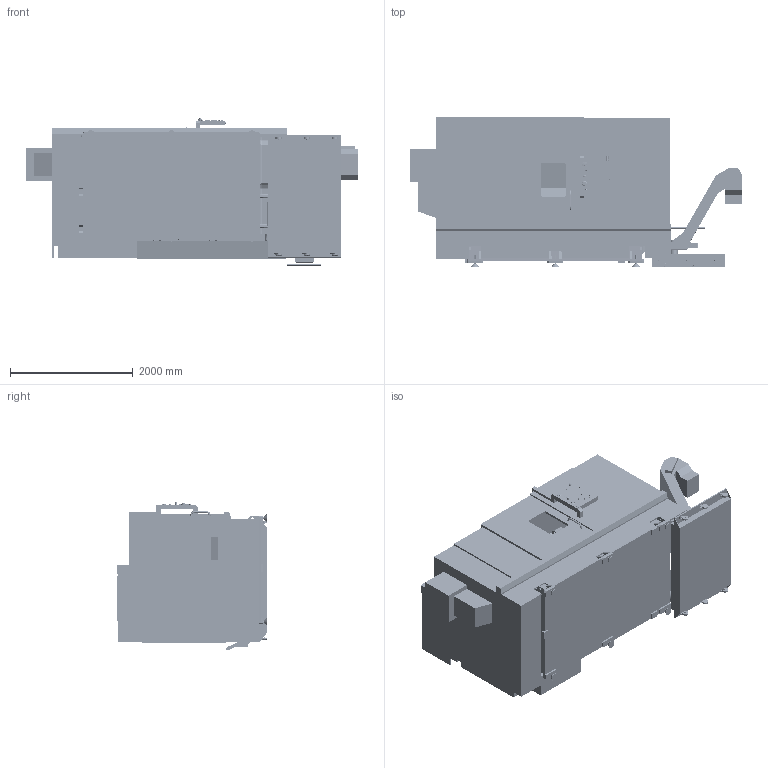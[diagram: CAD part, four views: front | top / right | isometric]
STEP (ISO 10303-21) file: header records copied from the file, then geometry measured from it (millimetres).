
FILE_DESCRIPTION (( 'STEP AP203' ), '1' );
FILE_NAME ('ST-45Y_5_2024.STEP', '2024-05-23T18:39:52', ( '' ), ( '' ), 'SwSTEP 2.0', 'SolidWorks 2022', '' );
FILE_SCHEMA (( 'CONFIG_CONTROL_DESIGN' ));
Length unit declared in the file: inch
Products named in the file (82): st40 enclosure; y wedge; coolant tank_6; bmt 75 Metric_10; ST 40 LEVELING PADS_4; bmt 75 inch_3; coolant tank_9; y wedge_3; bmt 75 inch_9; y wedge_2; Tailstock; BMT 75 Y AXIS TURRET; coolant tank_7; bmt 75 Metric_9; BMT 75 Y AXIS TURRET_7; bmt 75 inch_13; steady rest; BMT 75 Y AXIS TURRET_13; bmt 75 inch_6; bmt 75 Metric_6; bmt 75 inch_12; BMT 75 Y AXIS TURRET_9; BMT 75 Y AXIS TURRET_12; coolant tank_8; BMT 75 Y AXIS TURRET_2; BMT 75 Y AXIS TURRET_14; bmt 75 Metric_13; bmt 75 inch_5; BMT 75 Y AXIS TURRET_10; conveyor; ST 40 LEVELING PADS_5; coolant tank_2; bmt 75 inch_11; BMT 75 Y AXIS TURRET_15; bmt 75 Metric_5; ST 40 LEVELING PADS; BMT 75 Y AXIS TURRET_11; Tailstock_3; bmt 75 Metric_4; bmt 75 Metric_2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
Assembly tree (81 placements, depth 3):
  ST-45Y_5_2024
    base casting st 40
    y wedge
      y wedge
      y wedge_3
      y wedge_2
    coolant tank
      coolant tank_8
      coolant tank_4
      coolant tank
      coolant tank_7
      coolant tank_3
      coolant tank_2
      coolant tank_5
      coolant tank_10
      coolant tank_9
      coolant tank_6
    conveyor
    Tailstock
      Tailstock_3
      Tailstock
      Tailstock_2
    steady rest
    18 inch chuck
    st40 enclosure
    st40 enclosure door
    control pendant
    bmt 75 Metric
      bmt 75 Metric_6
      bmt 75 Metric_10
      bmt 75 Metric_5
      bmt 75 Metric_13
      bmt 75 Metric_14
      bmt 75 Metric_7
      bmt 75 Metric
      bmt 75 Metric_4
      bmt 75 Metric_9
      bmt 75 Metric_2
      bmt 75 Metric_3
      bmt 75 Metric_15
      bmt 75 Metric_8
      bmt 75 Metric_12
      bmt 75 Metric_11
    bmt 75 inch
      bmt 75 inch_8
      bmt 75 inch_2
      bmt 75 inch_4
      bmt 75 inch_7
      bmt 75 inch_6
      bmt 75 inch_15
      bmt 75 inch_11
      bmt 75 inch
      bmt 75 inch_10
      bmt 75 inch_13
      bmt 75 inch_3
      bmt 75 inch_5
      bmt 75 inch_12
      bmt 75 inch_9
      bmt 75 inch_14
    BMT 75 Y AXIS TURRET
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Bounding box: 5400.08 x 2454.08 x 2422.91 mm (x, y, z)
Volume: 8442209497.6 mm3; surface area: 141826445.8 mm2
Topology: 73 solids, 93 shells, 10124 faces, 26329 edges, 16851 vertices
Faces by surface type: plane 5342, cylinder 2612, bspline 1288, cone 850, torus 28, sphere 4
Entity records: 407792 total; most frequent: CARTESIAN_POINT 166193, ORIENTED_EDGE 52258, DIRECTION 41931, EDGE_CURVE 26143, VERTEX_POINT 16852, VECTOR 15039, LINE 15039, AXIS2_PLACEMENT_3D 13446
